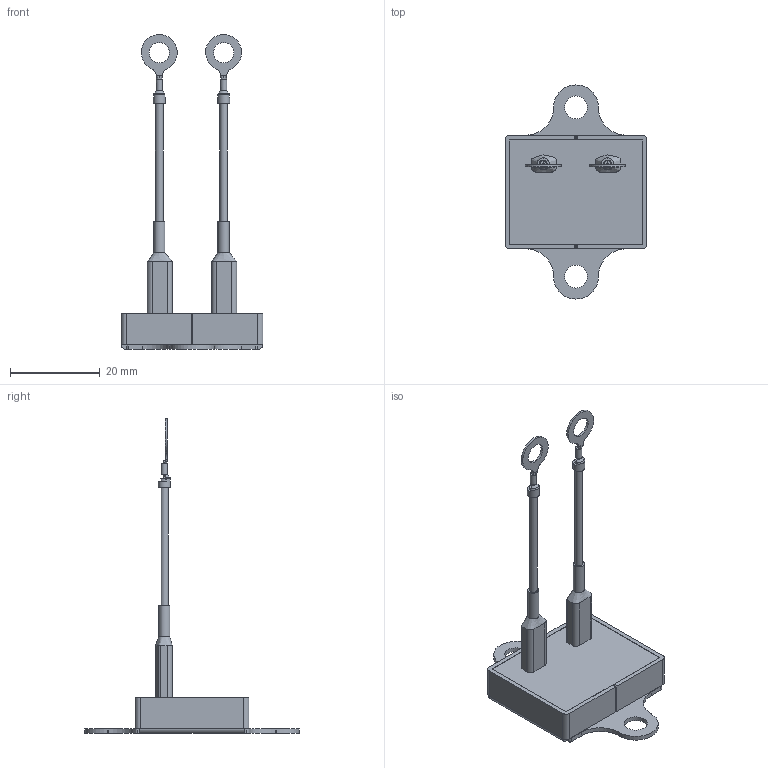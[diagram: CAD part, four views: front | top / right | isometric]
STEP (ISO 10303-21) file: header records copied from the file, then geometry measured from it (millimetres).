
FILE_DESCRIPTION(/* description */ (''),/* implementation_level */ '2;1');
FILE_NAME(/* name */ '',/* time_stamp */ '2025-12-17T10:22:27+09:00',/* author */ (''),/* organization */ (''),/* preprocessor_version */ 'ST-DEVELOPER v20.1',/* originating_system */ 'Autodesk Translation Framework v14.21.0.0',/* authorisation */ '');
FILE_SCHEMA (('AUTOMOTIVE_DESIGN { 1 0 10303 214 3 1 1 }'));
Length unit declared in the file: millimetre
Products named in the file (1): 2025-11-28-16-21-18-551
Bounding box: 31.5 x 47.6 x 70.01 mm (x, y, z)
Volume: 7202.3 mm3; surface area: 4136.4 mm2
Topology: 1 solids, 1 shells, 192 faces, 534 edges, 346 vertices
Faces by surface type: plane 108, cylinder 58, bspline 14, torus 8, cone 4
Full cylindrical faces by diameter (mm): 0.399 x2, 1.7 x2, 2.5 x2, 4.5 x2, 5.1 x2
Entity records: 7168 total; most frequent: CARTESIAN_POINT 1955, ORIENTED_EDGE 1068, DIRECTION 1065, EDGE_CURVE 534, AXIS2_PLACEMENT_3D 366, VERTEX_POINT 346, LINE 333, VECTOR 333
